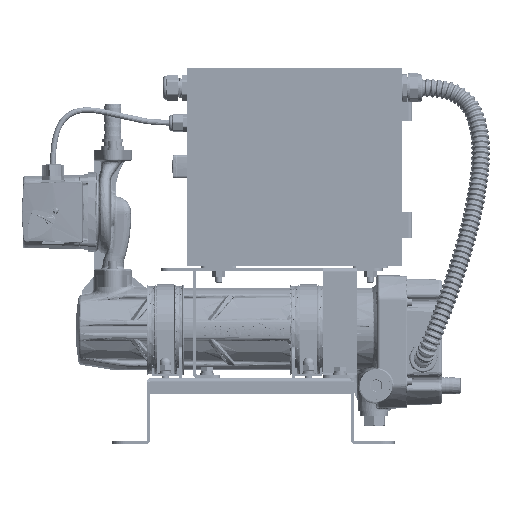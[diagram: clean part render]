
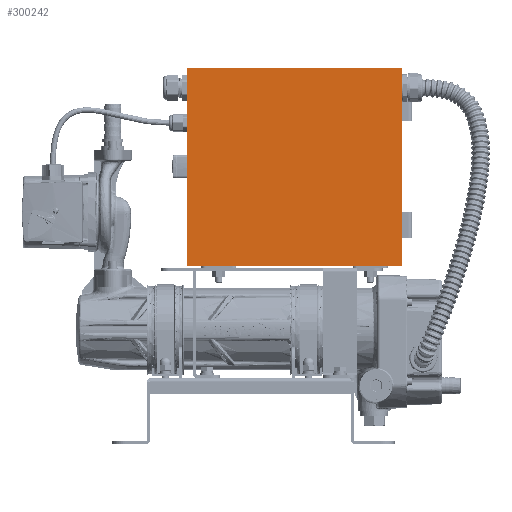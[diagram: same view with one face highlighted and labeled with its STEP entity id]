
A CAD part, top view. The second image highlights one B-rep face of the part: STEP entity #300242.
In plain terms, the highlighted planar face has unit normal (0, 0, 1).
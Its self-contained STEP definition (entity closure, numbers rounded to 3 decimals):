
#300229=AXIS2_PLACEMENT_3D('Plane Axis2P3D',#300226,#300227,#300228) ;
#299253=CARTESIAN_POINT('Vertex',(297.442,-74.567,34.745)) ;
#299256=CARTESIAN_POINT('Line Origine',(297.442,-187.067,34.745)) ;
#299260=CARTESIAN_POINT('Vertex',(297.442,-299.567,34.745)) ;
#299733=CARTESIAN_POINT('Line Origine',(175.442,-299.567,34.745)) ;
#299737=CARTESIAN_POINT('Vertex',(53.442,-299.567,34.745)) ;
#300211=CARTESIAN_POINT('Vertex',(53.442,-74.567,34.745)) ;
#300214=CARTESIAN_POINT('Line Origine',(175.442,-74.567,34.745)) ;
#300226=CARTESIAN_POINT('Axis2P3D Location',(297.442,-299.567,34.745)) ;
#300231=CARTESIAN_POINT('Line Origine',(53.442,-187.067,34.745)) ;
#299257=DIRECTION('Vector Direction',(0.,1.,0.)) ;
#299734=DIRECTION('Vector Direction',(1.,0.,0.)) ;
#300215=DIRECTION('Vector Direction',(-1.,0.,0.)) ;
#300227=DIRECTION('Axis2P3D Direction',(0.,0.,1.)) ;
#300228=DIRECTION('Axis2P3D XDirection',(1.,0.,0.)) ;
#300232=DIRECTION('Vector Direction',(0.,-1.,0.)) ;
#299258=VECTOR('Line Direction',#299257,1.) ;
#299735=VECTOR('Line Direction',#299734,1.) ;
#300216=VECTOR('Line Direction',#300215,1.) ;
#300233=VECTOR('Line Direction',#300232,1.) ;
#300237=ORIENTED_EDGE('',*,*,#300218,.T.) ;
#300238=ORIENTED_EDGE('',*,*,#300235,.T.) ;
#300239=ORIENTED_EDGE('',*,*,#299739,.T.) ;
#300240=ORIENTED_EDGE('',*,*,#299262,.T.) ;
#300242=ADVANCED_FACE('\X2\96F64EF651E04F554F53\X0\',(#300241),#300230,.T.) ;
#299262=EDGE_CURVE('',#299261,#299254,#299259,.T.) ;
#299739=EDGE_CURVE('',#299738,#299261,#299736,.T.) ;
#300218=EDGE_CURVE('',#299254,#300212,#300217,.T.) ;
#300235=EDGE_CURVE('',#300212,#299738,#300234,.T.) ;
#300236=EDGE_LOOP('',(#300237,#300238,#300239,#300240)) ;
#300241=FACE_OUTER_BOUND('',#300236,.T.) ;
#299259=LINE('Line',#299256,#299258) ;
#299736=LINE('Line',#299733,#299735) ;
#300217=LINE('Line',#300214,#300216) ;
#300234=LINE('Line',#300231,#300233) ;
#300230=PLANE('',#300229) ;
#299254=VERTEX_POINT('',#299253) ;
#299261=VERTEX_POINT('',#299260) ;
#299738=VERTEX_POINT('',#299737) ;
#300212=VERTEX_POINT('',#300211) ;
